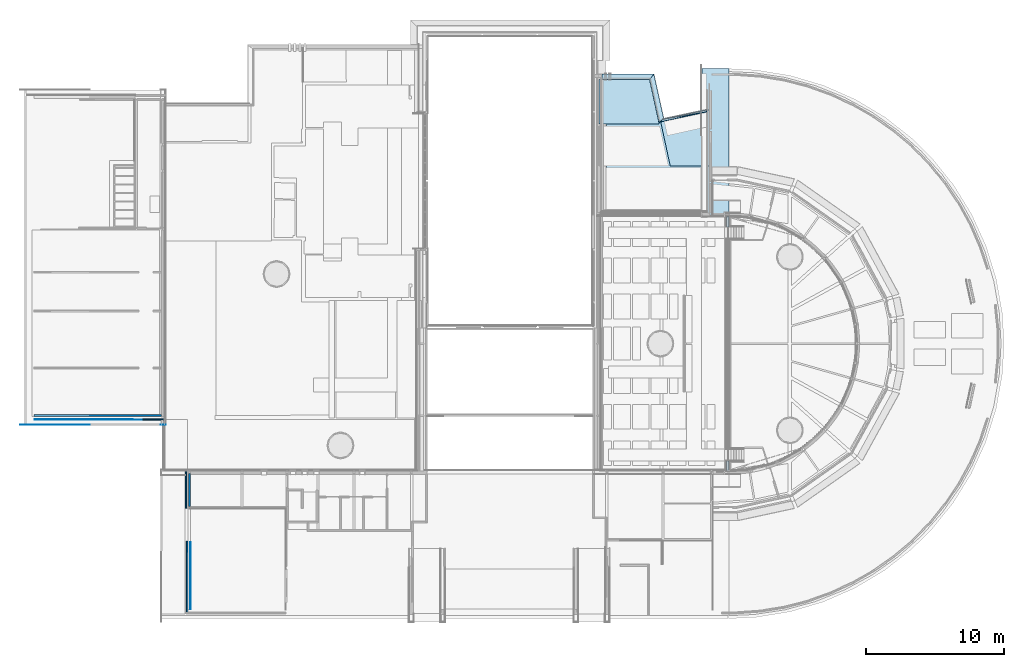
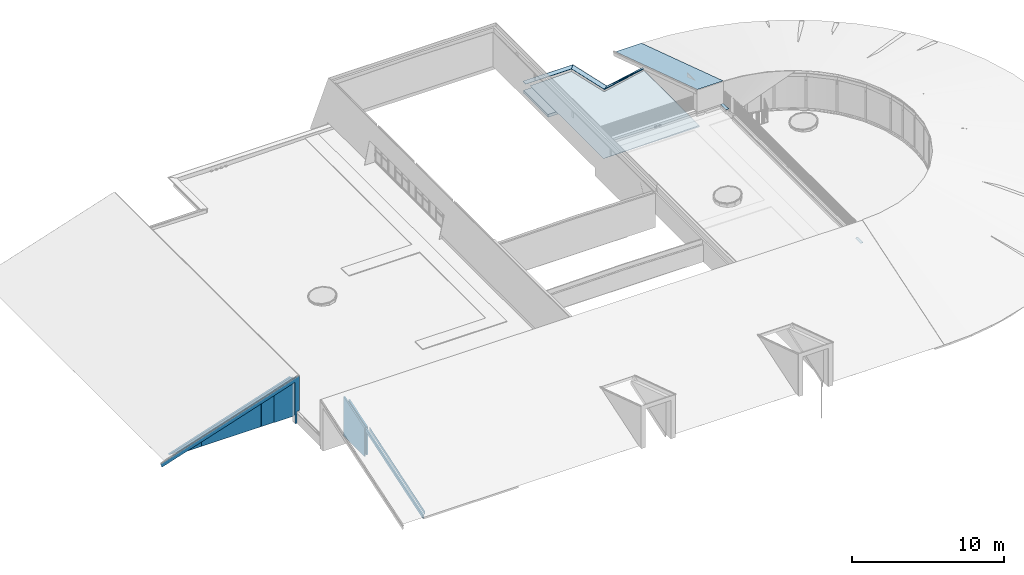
# One storey, part 16 of 66: 14 slabs, 11 walls, 4 openings, 3 elements without a shape of their own.
"""IFC2X3 building model written with IfcOpenShell, lengths in millimetres."""

import ifcopenshell
import ifcopenshell.guid

model = None  # the IFC model being written
_history = None  # IfcOwnerHistory: only IFC2X3 demands one
_inside = {}  # id of a spatial element -> (the spatial element, [elements in it])
_under = {}  # id of a project, library or spatial element -> (it, [spatial elements below it])
_declared = {}  # id of a project -> (the project, [libraries it declares])
_typed = {}  # id of a type object -> (the type object, [elements of that type])
_made_of = {}  # id of a material, layer set ... -> (it, [elements and type objects made of it])


def new_model(schema):
    """Start an empty IFC model of exactly this schema.

    Asked for "IFC4X3", IfcOpenShell would pick the latest addendum, in which some entities
    have other attributes; the version numbers below select the first issue.
    IFC2X3 requires an IfcOwnerHistory on every rooted entity: one is made here for all.
    """
    global model, _history
    if schema == "IFC4X3":
        model = ifcopenshell.file(schema_version=(4, 3, 0, 0))
    else:
        model = ifcopenshell.file(schema=schema)
    _inside.clear()
    _under.clear()
    _declared.clear()
    _typed.clear()
    _made_of.clear()
    _history = None
    if model.schema == "IFC2X3":
        org = make("IfcOrganization", Name="unknown")
        user = make(
            "IfcPersonAndOrganization",
            ThePerson=make("IfcPerson", FamilyName="unknown"),
            TheOrganization=org,
        )
        app = make(
            "IfcApplication",
            ApplicationDeveloper=org,
            Version="unknown",
            ApplicationFullName="unknown",
            ApplicationIdentifier="unknown",
        )
        _history = make(
            "IfcOwnerHistory",
            OwningUser=user,
            OwningApplication=app,
            ChangeAction="ADDED",
            CreationDate=0,
        )
    return model


def make(cls, **values):
    """One entity of the class cls with the attributes given. An attribute that is None is left unset."""
    return model.create_entity(
        cls, **{name: value for name, value in values.items() if value is not None}
    )


def entity(cls, *values):
    """Any entity or typed value of the class cls, its attributes in the order of the schema. None: left unset."""
    e = model.create_entity(cls)
    for i, value in enumerate(values):
        if value is not None:
            e[i] = value
    return e


def rooted(cls, **values):
    """An entity with a GlobalId (a new one), such as an element, a storey or a relation."""
    return make(cls, GlobalId=ifcopenshell.guid.new(), OwnerHistory=_history, **values)


def si_unit(unit_type, name, prefix=None):
    """IfcSIUnit, for example si_unit("LENGTHUNIT", "METRE", prefix="MILLI")."""
    return make("IfcSIUnit", UnitType=unit_type, Prefix=prefix, Name=name)


def converted_unit(unit_type, name, factor, base, dimensions=None, offset=None):
    """IfcConversionBasedUnit, such as the inch: factor (a typed value) times the base unit."""
    return make(
        "IfcConversionBasedUnit"
        if offset is None
        else "IfcConversionBasedUnitWithOffset",
        ConversionOffset=offset,
        Dimensions=None
        if dimensions is None
        else entity("IfcDimensionalExponents", *dimensions),
        UnitType=unit_type,
        Name=name,
        ConversionFactor=make(
            "IfcMeasureWithUnit", ValueComponent=factor, UnitComponent=base
        ),
    )


def derived_unit(unit_type, elements):
    """IfcDerivedUnit: a product of units, each with its exponent."""
    return make(
        "IfcDerivedUnit",
        Elements=[
            make("IfcDerivedUnitElement", Unit=unit, Exponent=power)
            for unit, power in elements
        ],
        UnitType=unit_type,
    )


def assignment(units):
    """IfcUnitAssignment: the units of a project."""
    return None if units is None else make("IfcUnitAssignment", Units=units)


def point(xyz):
    """IfcCartesianPoint."""
    return None if xyz is None else make("IfcCartesianPoint", Coordinates=xyz)


def direction(xyz):
    """IfcDirection."""
    return None if xyz is None else make("IfcDirection", DirectionRatios=xyz)


def frame(location, z_axis=None, x_axis=None):
    """IfcAxis2Placement3D, a coordinate frame: its origin and axes. An axis left out is left unset."""
    return make(
        "IfcAxis2Placement3D",
        Location=point(location),
        Axis=direction(z_axis),
        RefDirection=direction(x_axis),
    )


def frame_2d(location, x_axis=None):
    """IfcAxis2Placement2D, a coordinate frame in the plane: its origin and x axis."""
    return make(
        "IfcAxis2Placement2D", Location=point(location), RefDirection=direction(x_axis)
    )


def origin():
    """The frame at (0, 0, 0) with its axes left unset."""
    return frame((0.0, 0.0, 0.0))


def origin_2d_with_axis():
    """The frame at (0, 0) in the plane with the x axis (1, 0) written out."""
    return frame_2d((0.0, 0.0), x_axis=(1.0, 0.0))


def place(relative_to, where):
    """IfcLocalPlacement: puts the frame where relative to a parent placement (None: the world)."""
    return make(
        "IfcLocalPlacement", PlacementRelTo=relative_to, RelativePlacement=where
    )


def context(
    kind, dimensions, precision=None, world=None, true_north=None, identifier=None
):
    """IfcGeometricRepresentationContext, for example the 3D "Model" context."""
    return make(
        "IfcGeometricRepresentationContext",
        ContextIdentifier=identifier,
        ContextType=kind,
        CoordinateSpaceDimension=dimensions,
        Precision=precision,
        WorldCoordinateSystem=world,
        TrueNorth=true_north,
    )


def subcontext(parent, identifier, kind, view, scale=None):
    """IfcGeometricRepresentationSubContext, for example "Body" below "Model"."""
    return make(
        "IfcGeometricRepresentationSubContext",
        ContextIdentifier=identifier,
        ContextType=kind,
        ParentContext=parent,
        TargetScale=scale,
        TargetView=view,
    )


def project(units=None, contexts=None):
    """IfcProject with its units and contexts."""
    return rooted(
        "IfcProject",
        Name="project",
        RepresentationContexts=contexts,
        UnitsInContext=assignment(units),
    )


def spatial(cls, under=None, at=None, **own):
    """A site, building, storey or space (cls), placed at a placement, below another one or the project."""
    s = rooted(cls, ObjectPlacement=at, **own)
    if under is not None:
        _under.setdefault(under.id(), (under, []))[1].append(s)
    return s


def polyline(points):
    """IfcPolyline through the points."""
    return make("IfcPolyline", Points=[point(p) for p in points])


def profile(cls, at=None, kind="AREA", **sizes):
    """A parametric profile (cls). Its sizes go by their IFC names, for example OverallWidth=200.0."""
    return make(cls, ProfileType=kind, Position=at, **sizes)


def rectangle(**sizes):
    """IfcRectangleProfileDef."""
    return profile("IfcRectangleProfileDef", **sizes)


def outline(outer, holes=None, kind="AREA"):
    """IfcArbitraryClosedProfileDef: a profile drawn as a closed curve; with holes, ...WithVoids."""
    if holes is None:
        return make("IfcArbitraryClosedProfileDef", ProfileType=kind, OuterCurve=outer)
    return make(
        "IfcArbitraryProfileDefWithVoids",
        ProfileType=kind,
        OuterCurve=outer,
        InnerCurves=holes,
    )


def extrude(swept, where, along, depth):
    """IfcExtrudedAreaSolid: the profile swept, set in the frame where, extruded along a direction by depth."""
    return make(
        "IfcExtrudedAreaSolid",
        SweptArea=swept,
        Position=where,
        ExtrudedDirection=direction(along),
        Depth=depth,
    )


def clip(a, b, op="DIFFERENCE"):
    """IfcBooleanClippingResult: the solid a cut by the half space b."""
    return make(
        "IfcBooleanClippingResult", Operator=op, FirstOperand=a, SecondOperand=b
    )


def halfspace(plane, agree):
    """IfcHalfSpaceSolid: all space on one side of the plane z = 0 of the frame plane."""
    return make(
        "IfcHalfSpaceSolid",
        BaseSurface=make("IfcPlane", Position=plane),
        AgreementFlag=agree,
    )


def faces_of(points, faces, orient=None, outer=None):
    """IfcFace entities. A face is a list of loops; a loop is a list of indices into points, from 0.

    orient and outer hold one flag for each loop. By default every Orientation is true, the
    first loop of a face is its IfcFaceOuterBound and the others are IfcFaceBound.
    """
    made = []
    for i, loops in enumerate(faces):
        bounds = []
        for j, loop in enumerate(loops):
            is_outer = j == 0 if outer is None else outer[i][j]
            bounds.append(
                make(
                    "IfcFaceOuterBound" if is_outer else "IfcFaceBound",
                    Bound=make("IfcPolyLoop", Polygon=[points[k] for k in loop]),
                    Orientation=True if orient is None else orient[i][j],
                )
            )
        made.append(make("IfcFace", Bounds=bounds))
    return made


def faceted_brep(points, faces, orient=None, outer=None, voids=None):
    """IfcFacetedBrep: a solid bounded by flat faces; with voids (closed shells), ...WithVoids."""
    shared = [point(p) for p in points]
    hull = make("IfcClosedShell", CfsFaces=faces_of(shared, faces, orient, outer))
    if voids is None:
        return make("IfcFacetedBrep", Outer=hull)
    return make(
        "IfcFacetedBrepWithVoids",
        Outer=hull,
        Voids=[
            make(cls, CfsFaces=faces_of(shared, fs, o, b)) for cls, fs, o, b in voids
        ],
    )


def shape(context_of_items, identifier, shape_type, items):
    """IfcShapeRepresentation: the items that make up one representation, for example the "Body"."""
    return make(
        "IfcShapeRepresentation",
        ContextOfItems=context_of_items,
        RepresentationIdentifier=identifier,
        RepresentationType=shape_type,
        Items=items,
    )


def material(Name=None, Category=None):
    """IfcMaterial."""
    return make("IfcMaterial", Name=Name, Category=Category)


def layer(
    of_material, thickness, ventilated=None, Name=None, Category=None, Priority=None
):
    """IfcMaterialLayer: one layer of a wall or slab, of a material (None: an air gap)."""
    return make(
        "IfcMaterialLayer",
        Material=of_material,
        LayerThickness=thickness,
        IsVentilated=ventilated,
        Name=Name,
        Category=Category,
        Priority=Priority,
    )


def layer_set(layers, Name=None):
    """IfcMaterialLayerSet."""
    return make("IfcMaterialLayerSet", MaterialLayers=layers, LayerSetName=Name)


def layer_usage(for_layer_set, set_direction, sense, offset, extent=None):
    """IfcMaterialLayerSetUsage: how a layer set lies in its element."""
    return make(
        "IfcMaterialLayerSetUsage",
        ForLayerSet=for_layer_set,
        LayerSetDirection=set_direction,
        DirectionSense=sense,
        OffsetFromReferenceLine=offset,
        ReferenceExtent=extent,
    )


def made_of(thing, what):
    """Note that an element or type object is made of a material, layer set ...; save() writes the relation."""
    if what is not None:
        _made_of.setdefault(what.id(), (what, []))[1].append(thing)
    return thing


def type_object(cls, material=None, **own):
    """A type object (cls), such as IfcWallType, which elements share."""
    return made_of(rooted(cls, **own), material)


def element(
    cls,
    number,
    at=None,
    inside=None,
    cuts=None,
    type_object=None,
    material=None,
    context=None,
    identifier="Body",
    shape_type=None,
    held_by="IfcProductDefinitionShape",
    body=None,
    shapes=None,
    **own,
):
    """One element of the class cls, such as IfcWall. Its Tag is "e" and its number.

    at: its placement. inside: the storey or other place that contains it. cuts: it is an
    opening in that element (IfcRelVoidsElement). A single representation is given by context,
    identifier, shape_type and body (its items); several are given by shapes. held_by: the class
    of the entity that holds the representations. save() writes the other relations.
    """
    e = rooted(cls, Tag="e%d" % number, ObjectPlacement=at, **own)
    if body is not None:
        shapes = [shape(context, identifier, shape_type, body)]
    if shapes is not None:
        e.Representation = make(held_by, Representations=shapes)
    if inside is not None:
        _inside.setdefault(inside.id(), (inside, []))[1].append(e)
    if cuts is not None:
        rooted(
            "IfcRelVoidsElement", RelatingBuildingElement=cuts, RelatedOpeningElement=e
        )
    if type_object is not None:
        _typed.setdefault(type_object.id(), (type_object, []))[1].append(e)
    return made_of(e, material)


def aggregate(whole, parts):
    """IfcRelAggregates: a whole, such as a stair, and the parts it consists of."""
    return rooted("IfcRelAggregates", RelatingObject=whole, RelatedObjects=parts)


def save(model, path):
    """Write the relations noted so far, then the file.

    IfcRelAggregates (storeys below a building ...), IfcRelContainedInSpatialStructure (elements
    in a storey), IfcRelDefinesByType, IfcRelAssociatesMaterial and IfcRelDeclares: one each for
    every whole, place, type object, material and project.
    """
    for whole, parts in _under.values():
        aggregate(whole, parts)
    for where, things in _inside.values():
        rooted(
            "IfcRelContainedInSpatialStructure",
            RelatedElements=things,
            RelatingStructure=where,
        )
    for kind, things in _typed.values():
        rooted("IfcRelDefinesByType", RelatedObjects=things, RelatingType=kind)
    for what, things in _made_of.values():
        rooted("IfcRelAssociatesMaterial", RelatedObjects=things, RelatingMaterial=what)
    for by, libraries in _declared.values():
        rooted("IfcRelDeclares", RelatingContext=by, RelatedDefinitions=libraries)
    model.write(path)


model = new_model("IFC2X3")

# Units and contexts
model_context = context("Model", 3, precision=0.01, world=origin(), true_north=direction((6.12303176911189e-17, 1.0)))
body_context = subcontext(model_context, "Body", "Model", "MODEL_VIEW")
ifc_project = project(units=[si_unit("LENGTHUNIT", "METRE", prefix="MILLI"), si_unit("AREAUNIT", "SQUARE_METRE"), si_unit("VOLUMEUNIT", "CUBIC_METRE"), converted_unit("PLANEANGLEUNIT", "DEGREE", entity("IfcRatioMeasure", 0.0174532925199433), si_unit("PLANEANGLEUNIT", "RADIAN"), dimensions=[0, 0, 0, 0, 0, 0, 0]), si_unit("MASSUNIT", "GRAM", prefix="KILO"), derived_unit("MASSDENSITYUNIT", [(si_unit("MASSUNIT", "GRAM", prefix="KILO"), 1), (si_unit("LENGTHUNIT", "METRE"), -3)]), derived_unit("MOMENTOFINERTIAUNIT", [(si_unit("LENGTHUNIT", "METRE"), 4)]), si_unit("TIMEUNIT", "SECOND"), si_unit("FREQUENCYUNIT", "HERTZ"), si_unit("THERMODYNAMICTEMPERATUREUNIT", "DEGREE_CELSIUS"), derived_unit("THERMALTRANSMITTANCEUNIT", [(si_unit("MASSUNIT", "GRAM", prefix="KILO"), 1), (si_unit("THERMODYNAMICTEMPERATUREUNIT", "KELVIN"), -1), (si_unit("TIMEUNIT", "SECOND"), -3)]), derived_unit("VOLUMETRICFLOWRATEUNIT", [(si_unit("LENGTHUNIT", "METRE"), 3), (si_unit("TIMEUNIT", "SECOND"), -1)]), si_unit("ELECTRICCURRENTUNIT", "AMPERE"), si_unit("ELECTRICVOLTAGEUNIT", "VOLT"), si_unit("POWERUNIT", "WATT"), si_unit("FORCEUNIT", "NEWTON", prefix="KILO"), si_unit("ILLUMINANCEUNIT", "LUX"), si_unit("LUMINOUSFLUXUNIT", "LUMEN"), si_unit("LUMINOUSINTENSITYUNIT", "CANDELA"), derived_unit("USERDEFINED", [(si_unit("MASSUNIT", "GRAM", prefix="KILO"), -1), (si_unit("LENGTHUNIT", "METRE"), -2), (si_unit("TIMEUNIT", "SECOND"), 3), (si_unit("LUMINOUSFLUXUNIT", "LUMEN"), 1)]), derived_unit("LINEARVELOCITYUNIT", [(si_unit("LENGTHUNIT", "METRE"), 1), (si_unit("TIMEUNIT", "SECOND"), -1)]), si_unit("PRESSUREUNIT", "PASCAL"), derived_unit("USERDEFINED", [(si_unit("LENGTHUNIT", "METRE"), -2), (si_unit("MASSUNIT", "GRAM", prefix="KILO"), 1), (si_unit("TIMEUNIT", "SECOND"), -2)]), derived_unit("LINEARFORCEUNIT", [(si_unit("MASSUNIT", "GRAM", prefix="KILO"), 1), (si_unit("LENGTHUNIT", "METRE"), 1), (si_unit("TIMEUNIT", "SECOND"), -2), (si_unit("LENGTHUNIT", "METRE"), -1)]), derived_unit("PLANARFORCEUNIT", [(si_unit("MASSUNIT", "GRAM", prefix="KILO"), 1), (si_unit("LENGTHUNIT", "METRE"), 1), (si_unit("TIMEUNIT", "SECOND"), -2), (si_unit("LENGTHUNIT", "METRE"), -2)])], contexts=[model_context])

# Site, building, storey
site_placement = place(None, origin())
site = spatial("IfcSite", under=ifc_project, at=site_placement, Name="Default", CompositionType="ELEMENT")
building_placement = place(site_placement, origin())
building = spatial("IfcBuilding", under=site, at=building_placement, Name="-", CompositionType="ELEMENT")
storey_placement = place(building_placement, frame((0.0, 0.0, 3070.0)))
storey = spatial("IfcBuildingStorey", under=building, at=storey_placement, Name="01 eerste verdieping", CompositionType="ELEMENT", Elevation=3070.00000000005)

# Covering, slabs
covering_1_placement = place(storey_placement, frame((41429.702837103, 35659.9898646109, 469.099999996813)))
covering_1 = element("IfcCovering", 1, at=covering_1_placement, inside=storey, Name="Floor:NLRS_44_FL_Multiplex 15mm", ObjectType="Floor:NLRS_44_FL_Multiplex 15mm", PredefinedType="NOTDEFINED")
ifc_material_1 = material(Name="NLRS_i4_hout_multiplex")
slab_type_1 = type_object("IfcSlabType", Name="Floor:NLRS_44_FL_Multiplex 15mm", PredefinedType="ROOF")
slab_1_placement = place(covering_1_placement, origin())
slab_1 = element("IfcSlab", 2, at=slab_1_placement, type_object=slab_type_1, material=ifc_material_1, Name="Floor:NLRS_44_FL_Multiplex 15mm", ObjectType="Floor:NLRS_44_FL_Multiplex 15mm", PredefinedType="NOTDEFINED", context=body_context, shape_type="SweptSolid", body=[
    extrude(outline(polyline([(-1694.803531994, -449.245142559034), (1729.9605140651, 285.336345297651), (-1366.36393779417, -207.348107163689), (-1694.803531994, -449.245142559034)])), frame((5859.09288551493, 449.719122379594, 20.0), z_axis=(0.012531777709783, -0.0583215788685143, 0.998219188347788), x_axis=(0.999921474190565, 0.00073093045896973, -0.0125104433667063)), (0.0125104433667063, -0.0583261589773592, -0.998219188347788), 14.9999999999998),
])
slab_type_2 = type_object("IfcSlabType", Name="Floor:NLRS_44_FL_Multiplex 15mm", PredefinedType="ROOF")
slab_2_placement = place(covering_1_placement, origin())
slab_2 = element("IfcSlab", 3, at=slab_2_placement, type_object=slab_type_2, material=ifc_material_1, Name="Floor:NLRS_44_FL_Multiplex 15mm", ObjectType="Floor:NLRS_44_FL_Multiplex 15mm", PredefinedType="NOTDEFINED", context=body_context, shape_type="SweptSolid", body=[
    extrude(outline(polyline([(194.470287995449, -1736.0397888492), (522.996548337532, -1494.26046997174), (-194.470287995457, 1736.0397888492), (-493.840230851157, 1362.98797794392), (194.470287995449, -1736.0397888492)])), frame((3970.01872005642, 1736.04004427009, 20.0), z_axis=(-0.0261629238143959, -0.00580883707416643, 0.999640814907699), x_axis=(0.999657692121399, -0.000152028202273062, 0.0261624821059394)), (-0.0261624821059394, -0.00581082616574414, -0.999640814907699), 14.9999999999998),
])
slab_type_3 = type_object("IfcSlabType", Name="Floor:NLRS_44_FL_Multiplex 15mm", PredefinedType="ROOF")
slab_3_placement = place(covering_1_placement, origin())
slab_3 = element("IfcSlab", 4, at=slab_3_placement, type_object=slab_type_3, material=ifc_material_1, Name="Floor:NLRS_44_FL_Multiplex 15mm", ObjectType="Floor:NLRS_44_FL_Multiplex 15mm", PredefinedType="NOTDEFINED", context=body_context, shape_type="SweptSolid", body=[
    extrude(outline(polyline([(1548.16394474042, 161.412995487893), (1548.16394474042, 331.249852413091), (-1548.16394474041, -331.249852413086), (1548.16394474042, 161.412995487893)])), frame((6040.87689779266, 573.550839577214, 25.0), z_axis=(0.0126200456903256, -0.0588753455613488, 0.998185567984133), x_axis=(0.999920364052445, 0.000743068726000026, -0.0125981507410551)), (0.0125981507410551, -0.0588800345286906, -0.998185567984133), 14.9999999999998),
])
slab_type_4 = type_object("IfcSlabType", Name="Floor:NLRS_44_FL_Multiplex 15mm", PredefinedType="ROOF")
slab_4_placement = place(covering_1_placement, origin())
slab_4 = element("IfcSlab", 5, at=slab_4_placement, type_object=slab_type_4, material=ifc_material_1, Name="Floor:NLRS_44_FL_Multiplex 15mm", ObjectType="Floor:NLRS_44_FL_Multiplex 15mm", PredefinedType="NOTDEFINED", context=body_context, shape_type="SweptSolid", body=[
    extrude(outline(polyline([(1887.80750038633, 186.567012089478), (-1887.80750038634, 186.567012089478), (-1887.80750038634, -186.567012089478), (1588.54003422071, -186.567012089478), (1887.80750038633, 186.567012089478)])), frame((1887.80750038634, 3285.58008854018, 20.0), z_axis=(0.0, -0.0268000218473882, 0.999640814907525), x_axis=(1.0, 0.0, 0.0)), (0.0, -0.0268000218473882, -0.999640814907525), 14.9999999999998),
])
aggregate(covering_1, [slab_1, slab_2, slab_3, slab_4])

# Slabs
slab_5_placement = place(storey_placement, frame((41429.702837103, 35659.9898646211, 484.09999999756)))
slab_5 = element("IfcSlab", 6, at=slab_5_placement, inside=storey, Name="Floor:NLRS_23_FL_Bitumen dakbedekking", ObjectType="Floor:NLRS_23_FL_Bitumen dakbedekking", PredefinedType="NOTDEFINED")
ifc_material_2 = material(Name="NLRS_n2_bitumen_dak bedekking")
slab_type_5 = type_object("IfcSlabType", Name="Floor:NLRS_23_FL_Bitumen dakbedekking", PredefinedType="ROOF")
slab_6_placement = place(slab_5_placement, origin())
slab_6 = element("IfcSlab", 7, at=slab_6_placement, type_object=slab_type_5, material=ifc_material_2, Name="Floor:NLRS_23_FL_Bitumen dakbedekking", ObjectType="Floor:NLRS_23_FL_Bitumen dakbedekking", PredefinedType="NOTDEFINED", context=body_context, shape_type="SweptSolid", body=[
    extrude(outline(polyline([(-1887.80750039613, 186.567012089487), (-1887.80750039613, -186.567012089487), (1588.54003420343, -186.567012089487), (1887.80750039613, 186.567012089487), (-1887.80750039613, 186.567012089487)])), frame((1887.80750039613, 3285.58008852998, 11.0), z_axis=(0.0, -0.0268000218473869, 0.999640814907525), x_axis=(1.0, 0.0, 0.0)), (0.0, -0.0268000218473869, -0.999640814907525), 6.00000000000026),
])
slab_type_6 = type_object("IfcSlabType", Name="Floor:NLRS_23_FL_Bitumen dakbedekking", PredefinedType="ROOF")
slab_7_placement = place(slab_5_placement, origin())
slab_7 = element("IfcSlab", 8, at=slab_7_placement, type_object=slab_type_6, material=ifc_material_2, Name="Floor:NLRS_23_FL_Bitumen dakbedekking", ObjectType="Floor:NLRS_23_FL_Bitumen dakbedekking", PredefinedType="NOTDEFINED", context=body_context, shape_type="SweptSolid", body=[
    extrude(outline(polyline([(-493.840230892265, 1362.98797793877), (194.470288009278, -1736.03978884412), (522.996548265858, -1494.26046998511), (-194.470288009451, 1736.03978884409), (-493.840230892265, 1362.98797793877)])), frame((3970.01872008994, 1736.04004426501, 11.0), z_axis=(-0.026162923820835, -0.00580883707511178, 0.999640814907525), x_axis=(0.999657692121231, -0.000152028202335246, 0.0261624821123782)), (-0.0261624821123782, -0.00581082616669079, -0.999640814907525), 6.00000000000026),
])
slab_type_7 = type_object("IfcSlabType", Name="Floor:NLRS_23_FL_Bitumen dakbedekking", PredefinedType="ROOF")
slab_8_placement = place(slab_5_placement, origin())
slab_8 = element("IfcSlab", 9, at=slab_8_placement, type_object=slab_type_7, material=ifc_material_2, Name="Floor:NLRS_23_FL_Bitumen dakbedekking", ObjectType="Floor:NLRS_23_FL_Bitumen dakbedekking", PredefinedType="NOTDEFINED", context=body_context, shape_type="SweptSolid", body=[
    extrude(outline(polyline([(-1694.80353197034, -449.24514255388), (1729.96051404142, 285.33634529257), (-1366.36393785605, -207.348107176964), (-1694.80353197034, -449.24514255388)])), frame((5859.0928855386, 449.719122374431, 11.0), z_axis=(0.0125317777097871, -0.0583215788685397, 0.998219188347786), x_axis=(0.999921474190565, 0.000730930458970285, -0.0125104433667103)), (0.0125104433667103, -0.0583261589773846, -0.998219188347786), 6.00000000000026),
])
slab_type_8 = type_object("IfcSlabType", Name="Floor:NLRS_23_FL_Bitumen dakbedekking", PredefinedType="ROOF")
slab_9_placement = place(slab_5_placement, origin())
slab_9 = element("IfcSlab", 10, at=slab_9_placement, type_object=slab_type_8, material=ifc_material_2, Name="Floor:NLRS_23_FL_Bitumen dakbedekking", ObjectType="Floor:NLRS_23_FL_Bitumen dakbedekking", PredefinedType="NOTDEFINED", context=body_context, shape_type="SweptSolid", body=[
    extrude(outline(polyline([(1548.16394475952, 161.412995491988), (1548.16394475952, 331.249852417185), (-1548.16394475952, -331.249852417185), (1548.16394475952, 161.412995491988)])), frame((6040.87689777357, 573.550839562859, 16.0), z_axis=(0.012620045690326, -0.0588753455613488, 0.998185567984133), x_axis=(0.999920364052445, 0.00074306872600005, -0.0125981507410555)), (0.0125981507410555, -0.0588800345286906, -0.998185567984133), 6.00000000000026),
])
aggregate(slab_5, [slab_6, slab_7, slab_8, slab_9])

# Covering, slab
covering_2_placement = place(storey_placement, frame((48674.797408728, 28798.5392396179, 73.5199332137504)))
covering_2 = element("IfcCovering", 11, at=covering_2_placement, inside=storey, Name="Basic Roof:NLRS_47_Felsdak zink", ObjectType="Basic Roof:NLRS_47_Felsdak zink", PredefinedType="NOTDEFINED")
slab_type_9 = type_object("IfcSlabType", Name="Basic Roof:NLRS_47_Felsdak zink", PredefinedType="ROOF")
slab_10_placement = place(covering_2_placement, origin())
slab_10 = element("IfcSlab", 12, at=slab_10_placement, type_object=slab_type_9, Name="Basic Roof:NLRS_47_Felsdak zink", ObjectType="Basic Roof:NLRS_47_Felsdak zink", PredefinedType="NOTDEFINED", context=body_context, shape_type="SweptSolid", body=[
    extrude(rectangle(XDim=1971.24939813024, YDim=11290.3324843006, at=frame_2d((0.0, -1.81898940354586e-12), x_axis=(1.0, 0.0))), frame((985.624699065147, 5368.87214016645, 1744.45230489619), z_axis=(0.0, 0.309016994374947, 0.951056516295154), x_axis=(1.0, 0.0, 0.0)), (0.0, -0.309016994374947, 0.951056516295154), 1.05146222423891),
])
aggregate(covering_2, [slab_10])

# Slabs
ifc_material_3 = material(Name="NLRS_i2_hout naaldhout vuren_gen")
ifc_layer_1 = layer(ifc_material_3, 221.0)
ifc_layer_set_1 = layer_set([ifc_layer_1], Name="Floor:NLRS_23_FL_Houten balk laag 221mm")
ifc_layer_usage_1 = layer_usage(ifc_layer_set_1, "AXIS3", "POSITIVE", 0.0)
slab_type_10 = type_object("IfcSlabType", Name="Floor:NLRS_23_FL_Houten balk laag 221mm", PredefinedType="FLOOR", material=ifc_layer_set_1)
slab_11_placement = place(storey_placement, origin())
element("IfcSlab", 13, at=slab_11_placement, inside=storey, type_object=slab_type_10, material=ifc_layer_usage_1, Name="Floor:NLRS_23_FL_Houten balk laag 221mm", ObjectType="Floor:NLRS_23_FL_Houten balk laag 221mm", PredefinedType="FLOOR", context=body_context, shape_type="SweptSolid", body=[
    extrude(outline(polyline([(-1607.10030036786, -1836.35925834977), (1251.7974619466, -1836.35925834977), (1962.40313878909, 1450.50357532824), (-1607.10030036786, 2222.21494137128), (-1607.10030036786, -1836.35925834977)])), frame((47639.520089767, 34330.1008284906, 82.0), z_axis=(0.0, 0.0, -1.0), x_axis=(-1.0, 0.0, 0.0)), (0.0, 0.0, 1.0), 221.0),
])
ifc_layer_usage_2 = layer_usage(ifc_layer_set_1, "AXIS3", "POSITIVE", 0.0)
slab_type_11 = type_object("IfcSlabType", Name="Floor:NLRS_23_FL_Houten balk laag 221mm", PredefinedType="FLOOR", material=ifc_layer_set_1)
slab_12_placement = place(storey_placement, origin())
element("IfcSlab", 14, at=slab_12_placement, inside=storey, type_object=slab_type_11, material=ifc_layer_usage_2, Name="Floor:NLRS_23_FL_Houten balk laag 221mm", ObjectType="Floor:NLRS_23_FL_Houten balk laag 221mm", PredefinedType="FLOOR", context=body_context, shape_type="SweptSolid", body=[
    extrude(outline(polyline([(-1611.75, -1999.65987751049), (1611.75, -1999.65987751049), (1611.75000000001, 1648.99367852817), (-1611.75, 2350.32607649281), (-1611.75, -1999.65987751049)])), frame((43245.7266879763, 37118.8199531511, 82.0), z_axis=(0.0, 0.0, -1.0), x_axis=(0.0, 1.0, 0.0)), (0.0, 0.0, 1.0), 221.0),
])
slab_type_12 = type_object("IfcSlabType", Name="Floor:NLRS_23_FL_Pir dakisolatie afschot", PredefinedType="FLOOR")
slab_13_placement = place(storey_placement, origin())
element("IfcSlab", 15, at=slab_13_placement, inside=storey, type_object=slab_type_12, Name="Floor:NLRS_23_FL_Pir dakisolatie afschot", ObjectType="Floor:NLRS_23_FL_Pir dakisolatie afschot", PredefinedType="FLOOR", context=body_context, shape_type="Brep", body=[
    faceted_brep([(49024.6203901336, 36391.180947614, 240.0), (49024.6203901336, 29124.7067824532, 240.0), (41763.2062373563, 29124.7067824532, 240.0), (41763.2062373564, 38759.069953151, 240.0), (44906.0503717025, 38759.069953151, 240.0), (45589.6559880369, 35658.6207386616, 240.0), (44906.0503717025, 38759.069953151, 290.285506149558), (49024.6203901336, 29124.7067824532, 356.182626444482), (49024.6203901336, 36391.180947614, 356.182626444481), (45589.6559880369, 35658.6207386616, 301.223196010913)], [[[0, 1, 2, 3, 4, 5]], [[4, 3, 6]], [[2, 1, 7]], [[1, 0, 8, 7]], [[5, 4, 6, 9]], [[0, 5, 9, 8]], [[3, 2, 7, 8, 9, 6]]]),
])
ifc_layer_2 = layer(ifc_material_2, 6.0)
ifc_layer_set_2 = layer_set([ifc_layer_2], Name="Floor:NLRS_23_FL_Bitumen dakbedekking")
ifc_layer_usage_3 = layer_usage(ifc_layer_set_2, "AXIS3", "POSITIVE", 0.0)
slab_type_13 = type_object("IfcSlabType", Name="Floor:NLRS_23_FL_Bitumen dakbedekking", PredefinedType="FLOOR", material=ifc_layer_set_2)
slab_14_placement = place(storey_placement, origin())
element("IfcSlab", 16, at=slab_14_placement, inside=storey, type_object=slab_type_13, material=ifc_layer_usage_3, Name="Floor:NLRS_23_FL_Bitumen dakbedekking", ObjectType="Floor:NLRS_23_FL_Bitumen dakbedekking", PredefinedType="FLOOR", context=body_context, shape_type="SweptSolid", body=[
    extrude(rectangle(XDim=710.37250105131, YDim=212.000000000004, at=origin_2d_with_axis()), frame((50556.1203901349, 10775.8103459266, 1750.0), z_axis=(0.0, 0.0, -1.0), x_axis=(0.0, 1.0, 0.0)), (0.0, 0.0, 1.0), 6.00000000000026),
])
ifc_layer_usage_4 = layer_usage(ifc_layer_set_2, "AXIS3", "POSITIVE", 0.0)
slab_type_14 = type_object("IfcSlabType", Name="Floor:NLRS_23_FL_Bitumen dakbedekking", PredefinedType="FLOOR", material=ifc_layer_set_2)
slab_15_placement = place(storey_placement, origin())
element("IfcSlab", 17, at=slab_15_placement, inside=storey, type_object=slab_type_14, material=ifc_layer_usage_4, Name="Floor:NLRS_23_FL_Bitumen dakbedekking", ObjectType="Floor:NLRS_23_FL_Bitumen dakbedekking", PredefinedType="FLOOR", context=body_context, shape_type="SweptSolid", body=[
    extrude(rectangle(XDim=736.498766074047, YDim=211.999999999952, at=frame_2d((0.0, -8.66151594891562e-12), x_axis=(1.0, 0.0))), frame((50556.1203901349, 28449.2459794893, 1750.0), z_axis=(0.0, 0.0, -1.0), x_axis=(0.0, 1.0, 0.0)), (0.0, 0.0, 1.0), 6.00000000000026),
])

# Walls
ifc_material_4 = material(Name="NLRS_f1_kalkzandsteen_CS20")
ifc_layer_3 = layer(ifc_material_4, 120.0)
ifc_layer_set_3 = layer_set([ifc_layer_3], Name="Basic Wall:NLRS_21_WA_kalkzandsteen_120mm_CS20_gen_aly")
ifc_layer_usage_5 = layer_usage(ifc_layer_set_3, "AXIS2", "NEGATIVE", 60.0)
wall_type_1 = type_object("IfcWallType", Name="Basic Wall:NLRS_21_WA_kalkzandsteen_120mm_CS20_gen_aly", PredefinedType="STANDARD", material=ifc_layer_set_3)
wall_1_placement = place(storey_placement, frame((11566.5104288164, 10201.820250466, 0.0), z_axis=(0.0, 0.0, 1.0), x_axis=(0.0, -1.0, 0.0)))
element("IfcWallStandardCase", 18, at=wall_1_placement, inside=storey, type_object=wall_type_1, material=ifc_layer_usage_5, Name="Basic Wall:NLRS_21_WA_kalkzandsteen_120mm_CS20_gen_aly", ObjectType="Basic Wall:NLRS_21_WA_kalkzandsteen_120mm_CS20_gen_aly", context=body_context, shape_type="Clipping", body=[
    clip(extrude(rectangle(XDim=2377.90218691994, YDim=119.999999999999, at=frame_2d((1188.95109345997, -1.56319401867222e-13), x_axis=(-1.0, 0.0))), origin(), (0.0, 0.0, 1.0), 3004.16936525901), halfspace(frame((0.0, -60.0, 3004.16936525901), z_axis=(0.308992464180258, 0.0, 0.951064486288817), x_axis=(0.0, 1.0, 0.0)), False)),
])
ifc_layer_4 = layer(ifc_material_1, 9.0)
ifc_material_5 = material(Name="NLRS_m1_isolatie")
ifc_layer_5 = layer(ifc_material_5, 89.0)
ifc_layer_6 = layer(ifc_material_1, 9.0)
ifc_layer_set_4 = layer_set([ifc_layer_4, ifc_layer_5, ifc_layer_6], Name="Basic Wall:NLRS_21_WA_HSB-wand_110mm")
ifc_layer_usage_6 = layer_usage(ifc_layer_set_4, "AXIS2", "NEGATIVE", 53.5)
wall_type_2 = type_object("IfcWallType", Name="Basic Wall:NLRS_21_WA_HSB-wand_110mm", PredefinedType="STANDARD", material=ifc_layer_set_4)
wall_2_placement = place(storey_placement, frame((11388.5104288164, 7665.12122230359, -370.0), z_axis=(0.0, 0.0, 1.0), x_axis=(0.0, -1.0, 0.0)))
element("IfcWallStandardCase", 19, at=wall_2_placement, inside=storey, type_object=wall_type_2, material=ifc_layer_usage_6, Name="Basic Wall:NLRS_21_WA_HSB-wand_110mm", ObjectType="Basic Wall:NLRS_21_WA_HSB-wand_110mm", context=body_context, shape_type="Clipping", body=[
    clip(clip(extrude(rectangle(XDim=7506.3013425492, YDim=107.000000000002, at=frame_2d((3753.1506712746, -3.19744231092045e-14), x_axis=(-1.0, 0.0))), origin(), (0.0, 0.0, 1.0), 2707.65452892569), halfspace(frame((7496.5388417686, -53.5000000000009, 0.0), z_axis=(-0.309016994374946, 0.0, -0.951056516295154), x_axis=(0.0, 1.0, 0.0)), False)), halfspace(frame((0.0, -53.5000000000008, 2707.65452892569), z_axis=(0.309016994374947, 0.0, 0.951056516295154), x_axis=(0.0, 1.0, 0.0)), False)),
])
ifc_material_6 = material(Name="NLRS_g2_baksteen hf-225x105x42-10mm voeg halfsteens rood genuanceerd_gen")
ifc_layer_7 = layer(ifc_material_6, 100.0)
ifc_layer_set_5 = layer_set([ifc_layer_7], Name="Basic Wall:NLRS_20_WA_Metselwerk 100mm, Eems wf-p-0081-25")
ifc_layer_usage_7 = layer_usage(ifc_layer_set_5, "AXIS2", "NEGATIVE", 50.0)
wall_type_3 = type_object("IfcWallType", Name="Basic Wall:NLRS_20_WA_Metselwerk 100mm, Eems wf-p-0081-25", PredefinedType="STANDARD", material=ifc_layer_set_5)
wall_3_placement = place(storey_placement, frame((11311.5104288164, 7683.12122230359, 50.0), z_axis=(0.0, 0.0, 1.0), x_axis=(0.0, 1.0, 0.0)))
element("IfcWallStandardCase", 20, at=wall_3_placement, inside=storey, type_object=wall_type_3, material=ifc_layer_usage_7, Name="Basic Wall:NLRS_20_WA_Metselwerk 100mm, Eems wf-p-0081-25", ObjectType="Basic Wall:NLRS_20_WA_Metselwerk 100mm, Eems wf-p-0081-25", context=body_context, shape_type="Clipping", body=[
    clip(extrude(rectangle(XDim=2712.50287309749, YDim=99.9999999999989, at=frame_2d((1356.25143654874, 0.0), x_axis=(-1.0, 0.0))), origin(), (0.0, 0.0, 1.0), 3174.8486930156), halfspace(frame((0.0, -50.0, 2293.50308345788), z_axis=(-0.309016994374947, 0.0, 0.951056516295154), x_axis=(0.0, 1.0, 0.0)), False)),
])

# Wall, opening
ifc_layer_usage_8 = layer_usage(ifc_layer_set_5, "AXIS2", "NEGATIVE", 50.0)
wall_4_placement = place(storey_placement, frame((8124.19141472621, 14125.1240954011, 0.0)))
wall_4 = element("IfcWallStandardCase", 21, at=wall_4_placement, inside=storey, type_object=wall_type_3, material=ifc_layer_usage_8, Name="Basic Wall:NLRS_20_WA_Metselwerk 100mm, Eems wf-p-0081-25", ObjectType="Basic Wall:NLRS_20_WA_Metselwerk 100mm, Eems wf-p-0081-25", context=body_context, shape_type="Clipping", body=[
    clip(extrude(rectangle(XDim=1700.80858527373, YDim=99.9999999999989, at=frame_2d((850.404292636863, 0.0), x_axis=(-1.0, 0.0))), origin(), (0.0, 0.0, 1.0), 3073.61248982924), halfspace(frame((0.0, -50.0, 2517.50364505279), z_axis=(-0.310776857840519, 0.0, 0.950482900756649), x_axis=(0.0, 1.0, 0.0)), False)),
])
opening_1_placement = place(wall_4_placement, origin())
element("IfcOpeningElement", 22, at=opening_1_placement, cuts=wall_4, Name="Basic Wall:NLRS_20_WA_Metselwerk 100mm, Eems wf-p-0081-25", ObjectType="Opening", context=body_context, shape_type="SweptSolid", body=[
    extrude(rectangle(XDim=725.0, YDim=183.489571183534, at=frame_2d((0.0, 2.8421709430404e-13), x_axis=(0.0, 1.0))), frame((1609.06379968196, 50.0, 362.499999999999), z_axis=(0.0, -1.0, 0.0), x_axis=(1.0, 0.0, 0.0)), (0.0, 0.0, 1.0), 100.0),
])

# Walls
ifc_material_7 = material(Name="AL Houten gevelbekleding staand")
ifc_layer_8 = layer(ifc_material_7, 20.0)
ifc_layer_set_6 = layer_set([ifc_layer_8], Name="Basic Wall:NLRS_42_WA_Houten gevelbekleding staand 20mm")
ifc_layer_usage_9 = layer_usage(ifc_layer_set_6, "AXIS2", "NEGATIVE", 10.0)
wall_type_4 = type_object("IfcWallType", Name="Basic Wall:NLRS_42_WA_Houten gevelbekleding staand 20mm", PredefinedType="STANDARD", material=ifc_layer_set_6)
wall_5_placement = place(storey_placement, frame((7154.73179358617, 14111.0816650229, 0.0), z_axis=(0.0, 0.0, 1.0), x_axis=(-1.0, 0.0, 0.0)))
element("IfcWallStandardCase", 23, at=wall_5_placement, inside=storey, type_object=wall_type_4, material=ifc_layer_usage_9, Name="Basic Wall:NLRS_42_WA_Houten gevelbekleding staand 20mm", ObjectType="Basic Wall:NLRS_42_WA_Houten gevelbekleding staand 20mm", context=body_context, shape_type="Clipping", body=[
    clip(extrude(rectangle(XDim=4539.69818011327, YDim=19.9999999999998, at=frame_2d((2269.84909005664, -2.48689957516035e-14), x_axis=(-1.0, 0.0))), origin(), (0.0, 0.0, 1.0), 2210.14192593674), halfspace(frame((0.0, -10.0, 2210.14192593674), z_axis=(0.309800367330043, 0.0, 0.950801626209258), x_axis=(0.0, 1.0, 0.0)), False)),
])
ifc_layer_usage_10 = layer_usage(ifc_layer_set_6, "AXIS2", "NEGATIVE", 10.0)
wall_6_placement = place(storey_placement, frame((1644.96918717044, 14111.7099622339, 0.0), z_axis=(0.0, 0.0, 1.0), x_axis=(-1.0, 0.0, 0.0)))
element("IfcWallStandardCase", 24, at=wall_6_placement, inside=storey, type_object=wall_type_4, material=ifc_layer_usage_10, Name="Basic Wall:NLRS_42_WA_Houten gevelbekleding staand 20mm", ObjectType="Basic Wall:NLRS_42_WA_Houten gevelbekleding staand 20mm", context=body_context, shape_type="Clipping", body=[
    clip(extrude(rectangle(XDim=1279.57574677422, YDim=19.9999999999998, at=frame_2d((639.787873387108, -1.01163522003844e-12), x_axis=(-1.0, 0.0))), origin(), (0.0, 0.0, 1.0), 415.759362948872), halfspace(frame((0.0, -10.0, 415.759362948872), z_axis=(0.309016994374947, 0.0, 0.951056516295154), x_axis=(0.0, 1.0, 0.0)), False)),
])
ifc_material_8 = material(Name="AL Houten gevelbekleding liggend")
ifc_layer_9 = layer(ifc_material_8, 26.0)
ifc_layer_set_7 = layer_set([ifc_layer_9], Name="Basic Wall:NLRS_42_WA_Houten gevelbekleding liggend 26mm")
ifc_layer_usage_11 = layer_usage(ifc_layer_set_7, "AXIS2", "NEGATIVE", 13.0)
wall_type_5 = type_object("IfcWallType", Name="Basic Wall:NLRS_42_WA_Houten gevelbekleding liggend 26mm", PredefinedType="STANDARD", material=ifc_layer_set_7)
wall_7_placement = place(storey_placement, frame((7154.73180749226, 14108.3701192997, 0.0), z_axis=(0.0, 0.0, 1.0), x_axis=(0.999999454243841, -0.00104475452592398, 0.0)))
element("IfcWallStandardCase", 25, at=wall_7_placement, inside=storey, type_object=wall_type_5, material=ifc_layer_usage_11, Name="Basic Wall:NLRS_42_WA_Houten gevelbekleding liggend 26mm", ObjectType="Basic Wall:NLRS_42_WA_Houten gevelbekleding liggend 26mm", context=body_context, shape_type="Clipping", body=[
    clip(extrude(rectangle(XDim=969.460123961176, YDim=26.0000000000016, at=frame_2d((484.730061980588, -8.88178419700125e-16), x_axis=(-1.0, 0.0))), origin(), (0.0, 0.0, 1.0), 2516.60008736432), halfspace(frame((0.0, -13.0, 2209.42289113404), z_axis=(-0.302053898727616, 0.0, 0.953290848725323), x_axis=(0.0, 1.0, 0.0)), False)),
])
ifc_layer_usage_12 = layer_usage(ifc_layer_set_7, "AXIS2", "NEGATIVE", 13.0)
wall_8_placement = place(storey_placement, frame((1644.9803625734, 14108.3081117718, 0.0)))
element("IfcWallStandardCase", 26, at=wall_8_placement, inside=storey, type_object=wall_type_5, material=ifc_layer_usage_12, Name="Basic Wall:NLRS_42_WA_Houten gevelbekleding liggend 26mm", ObjectType="Basic Wall:NLRS_42_WA_Houten gevelbekleding liggend 26mm", context=body_context, shape_type="Clipping", body=[
    clip(extrude(rectangle(XDim=970.040776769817, YDim=25.9999999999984, at=frame_2d((485.020388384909, 0.0), x_axis=(-1.0, 0.0))), origin(), (0.0, 0.0, 1.0), 730.433726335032), halfspace(frame((0.0, -13.0, 415.248371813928), z_axis=(-0.309016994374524, 0.0, 0.951056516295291), x_axis=(0.0, 1.0, 0.0)), False)),
])

# Wall, openings
ifc_material_9 = material(Name="h7_zink zwart")
ifc_layer_10 = layer(ifc_material_9, 3.0)
ifc_layer_set_8 = layer_set([ifc_layer_10], Name="Basic Wall:NLRS_42_WA_beplating_zijkant hellend dak")
ifc_layer_usage_13 = layer_usage(ifc_layer_set_8, "AXIS2", "NEGATIVE", 1.5)
wall_type_6 = type_object("IfcWallType", Name="Basic Wall:NLRS_42_WA_beplating_zijkant hellend dak", PredefinedType="STANDARD", material=ifc_layer_set_8)
wall_9_placement = place(storey_placement, frame((9848.0, 13727.3169709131, -370.0), z_axis=(0.0, 0.0, 1.0), x_axis=(-1.0, 0.0, 0.0)))
wall_9 = element("IfcWallStandardCase", 27, at=wall_9_placement, inside=storey, type_object=wall_type_6, material=ifc_layer_usage_13, Name="Basic Wall:NLRS_42_WA_beplating_zijkant hellend dak", ObjectType="Basic Wall:NLRS_42_WA_beplating_zijkant hellend dak", context=body_context, shape_type="Clipping", body=[
    clip(clip(clip(clip(extrude(rectangle(XDim=10537.4329003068, YDim=2.99999999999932, at=frame_2d((5268.71645015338, 3.38395977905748e-13), x_axis=(-1.0, 0.0))), origin(), (0.0, 0.0, 1.0), 3777.03893235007), halfspace(frame((0.0, -1.50000000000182, 3777.03893235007), z_axis=(0.309016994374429, 0.0, 0.951056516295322), x_axis=(0.0, 1.0, 0.0)), False)), halfspace(frame((10537.4329003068, -1.50000000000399, 353.219435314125), z_axis=(0.951056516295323, 0.0, -0.309016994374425), x_axis=(0.0, 1.0, 0.0)), False)), halfspace(frame((340.0, -1.50000000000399, 0.0), z_axis=(0.0, 0.0, -1.0), x_axis=(0.0, 1.0, 0.0)), False)), halfspace(frame((10438.5474621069, 0.0, 48.8813500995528), z_axis=(0.00484037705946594, 0.0, -0.999988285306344), x_axis=(0.0, -1.0, 0.0)), False)),
])
opening_2_placement = place(wall_9_placement, origin())
element("IfcOpeningElement", 28, at=opening_2_placement, cuts=wall_9, Name="Basic Wall:NLRS_42_WA_beplating_zijkant hellend dak", ObjectType="Opening", context=body_context, shape_type="SweptSolid", body=[
    extrude(outline(polyline([(-4121.78263074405, -1105.76989291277), (7165.70600836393, -1105.76989291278), (-3043.92337761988, 2211.53978582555), (-4121.78263074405, -1105.76989291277)])), frame((3949.34654094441, -28819.4019192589, 994.675271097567), z_axis=(0.0, 1.0, 0.0), x_axis=(0.951056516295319, 0.0, -0.309016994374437)), (0.0, 0.0, 1.0), 30117.0947947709),
])
opening_3_placement = place(wall_9_placement, origin())
element("IfcOpeningElement", 29, at=opening_3_placement, cuts=wall_9, Name="Basic Wall:NLRS_42_WA_beplating_zijkant hellend dak", ObjectType="Opening", context=body_context, shape_type="SweptSolid", body=[
    extrude(outline(polyline([(-5393.88181836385, -1412.17245340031), (-3219.46631872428, -1412.17245340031), (4418.04575438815, 1069.4056493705), (4195.30238269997, 1754.93925743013), (-5393.88181836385, -1412.17245340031)])), frame((4872.27572353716, 1.49999999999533, 372.626683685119), z_axis=(0.0, -1.0, 0.0), x_axis=(-0.951056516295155, 0.0, 0.309016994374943)), (0.0, 0.0, 1.0), 3.0),
])
opening_4_placement = place(wall_9_placement, origin())
element("IfcOpeningElement", 30, at=opening_4_placement, cuts=wall_9, Name="Basic Wall:NLRS_42_WA_beplating_zijkant hellend dak", ObjectType="Opening", context=body_context, shape_type="SweptSolid", body=[
    extrude(rectangle(XDim=940.81269232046, YDim=186.500000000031, at=frame_2d((-2.8421709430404e-13, 0.0), x_axis=(1.0, 0.0))), frame((93.2500000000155, 1.49999999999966, 470.406346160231), z_axis=(0.0, 1.0, 0.0), x_axis=(0.0, 0.0, 1.0)), (0.0, 0.0, -1.0), 3.0),
])

# Walls
ifc_material_10 = material(Name="NLRS_i4_hout_underlayment")
ifc_layer_11 = layer(ifc_material_10, 9.0)
ifc_layer_12 = layer(ifc_material_5, 140.0)
ifc_layer_set_9 = layer_set([ifc_layer_11, ifc_layer_12], Name="Basic Wall:NLRS_21_WA_HSB-wand_149 (conform opgaaf constructeur)")
ifc_layer_usage_14 = layer_usage(ifc_layer_set_9, "AXIS2", "POSITIVE", -74.5)
wall_type_7 = type_object("IfcWallType", Name="Basic Wall:NLRS_21_WA_HSB-wand_149 (conform opgaaf constructeur)", PredefinedType="STANDARD", material=ifc_layer_set_9)
wall_10_placement = place(storey_placement, frame((295.734209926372, 14399.2535355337, 0.0)))
element("IfcWallStandardCase", 31, at=wall_10_placement, inside=storey, type_object=wall_type_7, material=ifc_layer_usage_14, Name="Basic Wall:NLRS_21_WA_HSB-wand_149 (conform opgaaf constructeur)", ObjectType="Basic Wall:NLRS_21_WA_HSB-wand_149 (conform opgaaf constructeur)", context=body_context, shape_type="Clipping", body=[
    clip(extrude(outline(polyline([(-1143.48420992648, -74.4999999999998), (9362.76579007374, -74.5000000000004), (9362.76579007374, -69.4332850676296), (9235.26579007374, -69.43328506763), (9235.26579007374, 74.5), (-1143.48420992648, 74.500000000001), (-1143.48420992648, -74.4999999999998)])), origin(), (0.0, 0.0, 1.0), 3000.7197551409), halfspace(frame((0.0, -74.5000000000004, 0.0), z_axis=(-0.309016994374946, 0.0, 0.951056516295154), x_axis=(0.0, 1.0, 0.0)), False)),
])
ifc_material_11 = material(Name="AL_Multiplex RAL 9002")
ifc_layer_13 = layer(ifc_material_11, 18.0)
ifc_layer_set_10 = layer_set([ifc_layer_13], Name="Basic Wall:NLRS_41_WA_plaatmateriaal 18mm RAL 9002")
ifc_layer_usage_15 = layer_usage(ifc_layer_set_10, "AXIS2", "NEGATIVE", 9.0)
wall_type_8 = type_object("IfcWallType", Name="Basic Wall:NLRS_41_WA_plaatmateriaal 18mm RAL 9002", PredefinedType="STANDARD", material=ifc_layer_set_10)
wall_11_placement = place(storey_placement, frame((11633.3284331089, 369.029334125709, -306.331670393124), z_axis=(0.0, 0.0, 1.0), x_axis=(0.0, 1.0, 0.0)))
element("IfcWallStandardCase", 32, at=wall_11_placement, inside=storey, type_object=wall_type_8, material=ifc_layer_usage_15, Name="Basic Wall:NLRS_41_WA_plaatmateriaal 18mm RAL 9002", ObjectType="Basic Wall:NLRS_41_WA_plaatmateriaal 18mm RAL 9002", context=body_context, shape_type="Clipping", body=[
    clip(clip(extrude(rectangle(XDim=7279.59188817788, YDim=18.0000000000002, at=frame_2d((3639.79594408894, 3.13526982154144e-13), x_axis=(-1.0, 0.0))), origin(), (0.0, 0.0, 1.0), 2640.08277035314), halfspace(frame((0.0, -9.0, 272.688954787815), z_axis=(-0.309266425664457, 0.0, 0.950975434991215), x_axis=(0.0, 1.0, 0.0)), False)), halfspace(frame((7279.59188817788, -9.0, 2367.39381556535), z_axis=(0.30926642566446, 0.0, -0.950975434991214), x_axis=(0.0, 1.0, 0.0)), False)),
])

save(model, "model.ifc")
